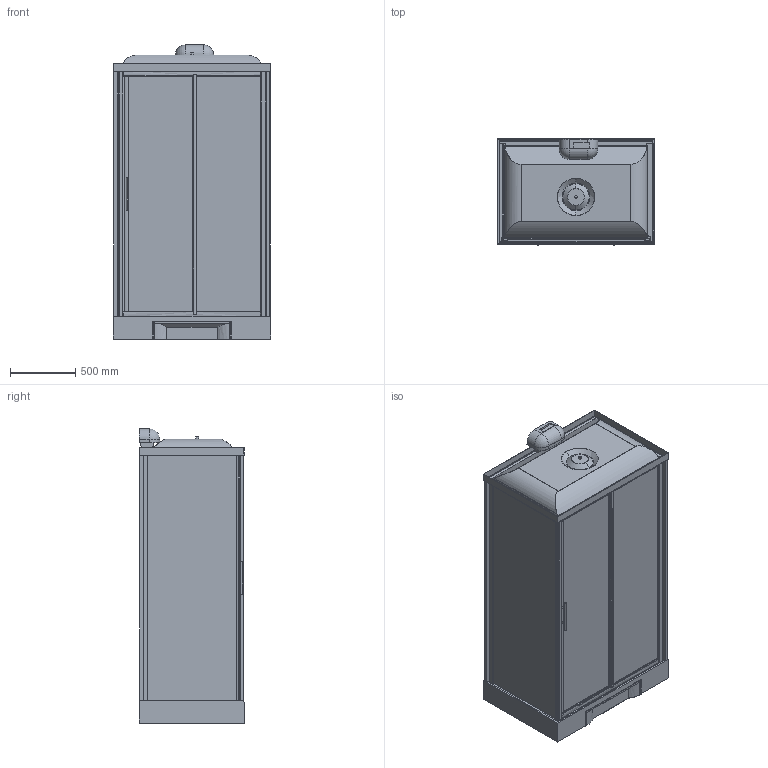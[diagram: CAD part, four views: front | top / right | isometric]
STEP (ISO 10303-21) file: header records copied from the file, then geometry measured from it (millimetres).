
FILE_DESCRIPTION(('STEP AP203'),'2;1');
FILE_NAME('NNH 2P 120 M 19N.stp','2015-09-08T09:22:59',(''),(''),'2014.1.117','THINKDESIGN','');
FILE_SCHEMA(('CONFIG_CONTROL_DESIGN'));
Length unit declared in the file: millimetre
Products named in the file (1): top
Bounding box: 1204.04 x 808.72 x 2255 mm (x, y, z)
Volume: 261013960 mm3; surface area: 23888125.9 mm2
Topology: 40 solids, 40 shells, 837 faces, 2133 edges, 1385 vertices
Faces by surface type: bspline 401, plane 328, cylinder 108
Entity records: 76509 total; most frequent: CARTESIAN_POINT 59357, ORIENTED_EDGE 4060, DIRECTION 2432, EDGE_CURVE 2030, VERTEX_POINT 1313, VECTOR 942, LINE 942, EDGE_LOOP 851
